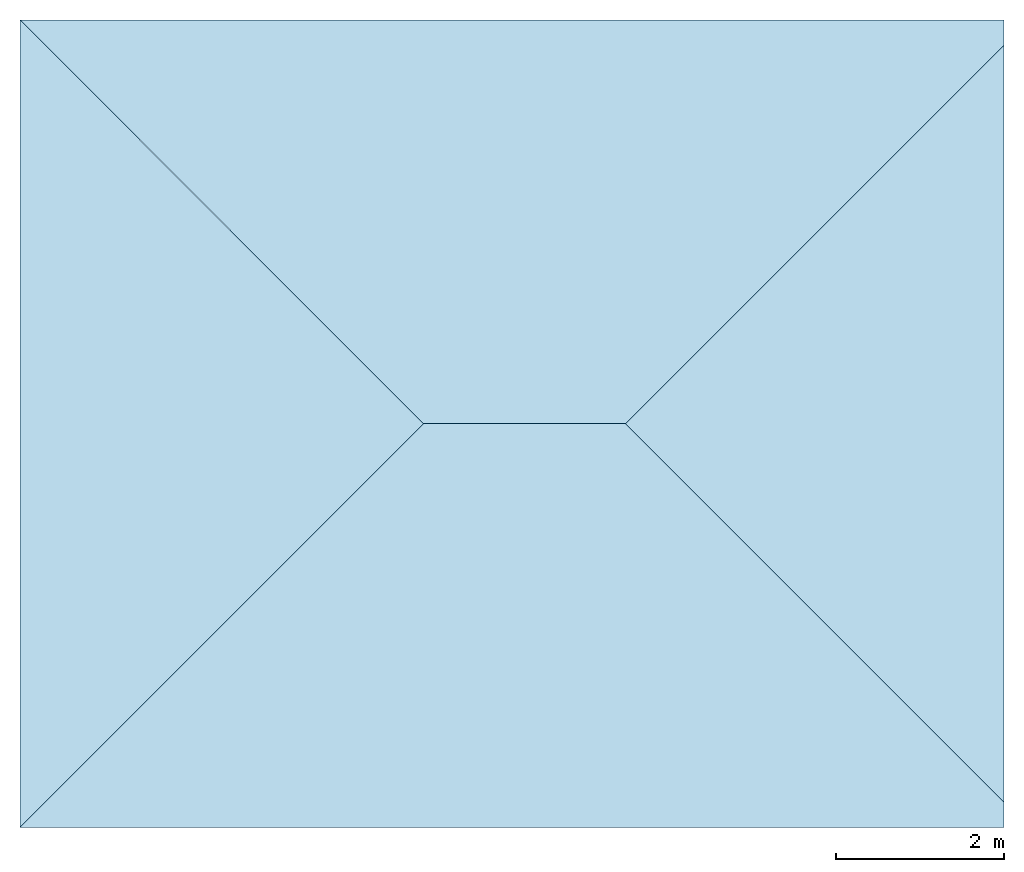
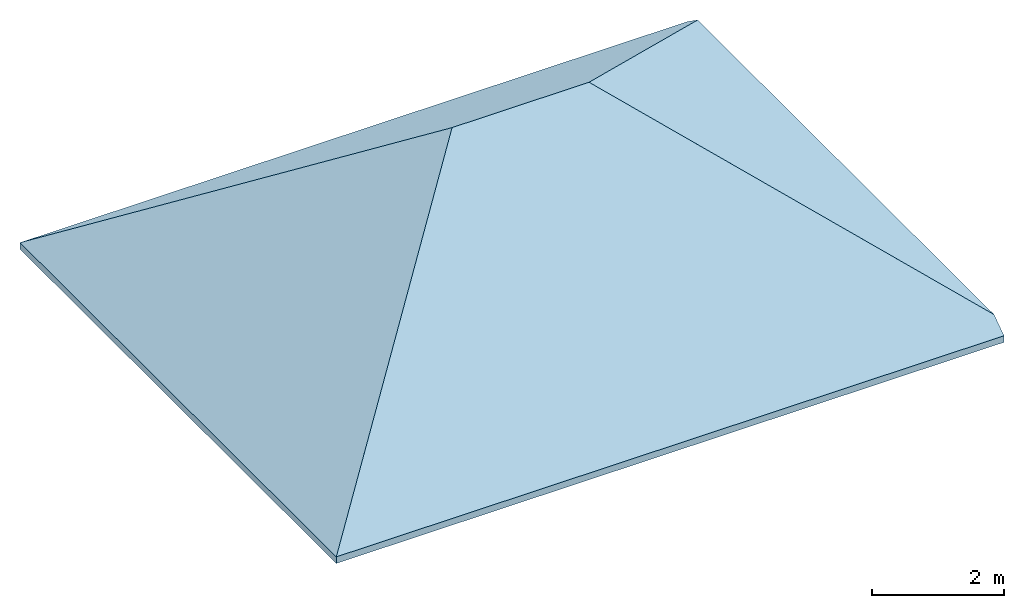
# One storey: 4 slabs, 1 element without a shape of its own.
"""IFC2X3 building model written with IfcOpenShell, lengths in centimetres."""

from ifc_helpers import new_model, entity, si_unit, converted_unit, derived_unit, direction, frame, origin, place, context, subcontext, project, spatial, polyline, outline, extrude, material, layer, layer_set, type_object, element, aggregate, save


model = new_model("IFC2X3")

# Units and contexts
model_context = context("Model", 3, precision=0.001, world=origin(), true_north=direction((6.123031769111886e-17, 1.0)))
body_context = subcontext(model_context, "Body", "Model", "MODEL_VIEW")
ifc_project = project(units=[si_unit("LENGTHUNIT", "METRE", prefix="CENTI"), si_unit("AREAUNIT", "SQUARE_METRE"), si_unit("VOLUMEUNIT", "CUBIC_METRE"), converted_unit("PLANEANGLEUNIT", "DEGREE", entity("IfcRatioMeasure", 0.017453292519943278), si_unit("PLANEANGLEUNIT", "RADIAN"), dimensions=[0, 0, 0, 0, 0, 0, 0]), si_unit("MASSUNIT", "GRAM", prefix="KILO"), derived_unit("MASSDENSITYUNIT", [(si_unit("MASSUNIT", "GRAM", prefix="KILO"), 1), (si_unit("LENGTHUNIT", "METRE"), -3)]), derived_unit("MOMENTOFINERTIAUNIT", [(si_unit("LENGTHUNIT", "METRE"), 4)]), si_unit("TIMEUNIT", "SECOND"), si_unit("FREQUENCYUNIT", "HERTZ"), si_unit("THERMODYNAMICTEMPERATUREUNIT", "DEGREE_CELSIUS"), derived_unit("THERMALTRANSMITTANCEUNIT", [(si_unit("MASSUNIT", "GRAM", prefix="KILO"), 1), (si_unit("THERMODYNAMICTEMPERATUREUNIT", "KELVIN"), -1), (si_unit("TIMEUNIT", "SECOND"), -3)]), derived_unit("THERMALCONDUCTANCEUNIT", [(si_unit("MASSUNIT", "GRAM", prefix="KILO"), 1), (si_unit("LENGTHUNIT", "METRE"), 1), (si_unit("THERMODYNAMICTEMPERATUREUNIT", "KELVIN"), -1), (si_unit("TIMEUNIT", "SECOND"), -3)]), derived_unit("VOLUMETRICFLOWRATEUNIT", [(si_unit("LENGTHUNIT", "METRE"), 3), (si_unit("TIMEUNIT", "SECOND"), -1)]), derived_unit("MASSFLOWRATEUNIT", [(si_unit("MASSUNIT", "GRAM", prefix="KILO"), 1), (si_unit("TIMEUNIT", "SECOND"), -1)]), derived_unit("ROTATIONALFREQUENCYUNIT", [(si_unit("TIMEUNIT", "SECOND"), -1)]), si_unit("ELECTRICCURRENTUNIT", "AMPERE"), si_unit("ELECTRICVOLTAGEUNIT", "VOLT"), si_unit("POWERUNIT", "WATT"), si_unit("FORCEUNIT", "NEWTON", prefix="KILO"), si_unit("ILLUMINANCEUNIT", "LUX"), si_unit("LUMINOUSFLUXUNIT", "LUMEN"), si_unit("LUMINOUSINTENSITYUNIT", "CANDELA"), derived_unit("USERDEFINED", [(si_unit("MASSUNIT", "GRAM", prefix="KILO"), -1), (si_unit("LENGTHUNIT", "METRE"), -2), (si_unit("TIMEUNIT", "SECOND"), 3), (si_unit("LUMINOUSFLUXUNIT", "LUMEN"), 1)]), derived_unit("USERDEFINED", [(si_unit("MASSUNIT", "GRAM", prefix="KILO"), 1), (si_unit("LENGTHUNIT", "METRE"), 3), (si_unit("TIMEUNIT", "SECOND"), -3), (si_unit("ELECTRICCURRENTUNIT", "AMPERE"), -2)]), derived_unit("USERDEFINED", [(si_unit("LENGTHUNIT", "METRE"), 2), (si_unit("TIMEUNIT", "SECOND"), -2)]), derived_unit("SOUNDPOWERUNIT", [(si_unit("MASSUNIT", "GRAM", prefix="KILO"), 1), (si_unit("LENGTHUNIT", "METRE"), 2), (si_unit("TIMEUNIT", "SECOND"), -3)]), derived_unit("SOUNDPRESSUREUNIT", [(si_unit("MASSUNIT", "GRAM", prefix="KILO"), 1), (si_unit("LENGTHUNIT", "METRE"), -1), (si_unit("TIMEUNIT", "SECOND"), -2)]), derived_unit("LINEARVELOCITYUNIT", [(si_unit("LENGTHUNIT", "METRE"), 1), (si_unit("TIMEUNIT", "SECOND"), -1)]), si_unit("PRESSUREUNIT", "PASCAL"), derived_unit("USERDEFINED", [(si_unit("LENGTHUNIT", "METRE"), -2), (si_unit("MASSUNIT", "GRAM", prefix="KILO"), 1), (si_unit("TIMEUNIT", "SECOND"), -2)]), derived_unit("LINEARFORCEUNIT", [(si_unit("MASSUNIT", "GRAM", prefix="KILO"), 1), (si_unit("LENGTHUNIT", "METRE"), 1), (si_unit("TIMEUNIT", "SECOND"), -2), (si_unit("LENGTHUNIT", "METRE"), -1)]), derived_unit("PLANARFORCEUNIT", [(si_unit("MASSUNIT", "GRAM", prefix="KILO"), 1), (si_unit("LENGTHUNIT", "METRE"), 1), (si_unit("TIMEUNIT", "SECOND"), -2), (si_unit("LENGTHUNIT", "METRE"), -2)]), derived_unit("SPECIFICHEATCAPACITYUNIT", [(si_unit("LENGTHUNIT", "METRE"), 2), (si_unit("TIMEUNIT", "SECOND"), -2), (si_unit("THERMODYNAMICTEMPERATUREUNIT", "KELVIN"), -1)]), derived_unit("VAPORPERMEABILITYUNIT", [(si_unit("TIMEUNIT", "SECOND"), 1), (si_unit("LENGTHUNIT", "METRE"), -1)]), derived_unit("DYNAMICVISCOSITYUNIT", [(si_unit("MASSUNIT", "GRAM", prefix="KILO"), 1), (si_unit("LENGTHUNIT", "METRE"), -1), (si_unit("TIMEUNIT", "SECOND"), -1)]), derived_unit("THERMALEXPANSIONCOEFFICIENTUNIT", [(si_unit("THERMODYNAMICTEMPERATUREUNIT", "KELVIN"), -1)])], contexts=[model_context])

# Site, building, storey
site_placement = place(None, origin())
site = spatial("IfcSite", under=ifc_project, at=site_placement, Name="Default", CompositionType="ELEMENT")
building_placement = place(site_placement, origin())
building = spatial("IfcBuilding", under=site, at=building_placement, CompositionType="ELEMENT")
storey_placement = place(building_placement, frame((0.0, 0.0, 350.0)))
storey = spatial("IfcBuildingStorey", under=building, at=storey_placement, Name="x_Arase habitation", CompositionType="ELEMENT", Elevation=350.0)

# Roof, slabs
ifc_material = material(Name="Ardoise")
ifc_layer = layer(ifc_material, 10.0)
ifc_layer_set = layer_set([ifc_layer], Name="Toit de base:Toit ardoise - 100 mm")
roof_placement = place(storey_placement, frame((-752.0684437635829, -551.3533541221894, -21.00622614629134)))
roof = element("IfcRoof", 1, at=roof_placement, inside=storey, material=ifc_layer_set, Name="Toit de base:Toit ardoise - 100 mm", ObjectType="Toit de base:Toit ardoise - 100 mm", ShapeType="NOTDEFINED")
slab_type = type_object("IfcSlabType", Name="Toit de base:Toit ardoise - 100 mm", PredefinedType="ROOF")
slab_1_placement = place(roof_placement, origin())
slab_1 = element("IfcSlab", 2, at=slab_1_placement, type_object=slab_type, material=ifc_layer_set, Name="Toit de base:Toit ardoise - 100 mm", ObjectType="Toit de base:Toit ardoise - 100 mm", PredefinedType="ROOF", context=body_context, shape_type="SweptSolid", body=[
    extrude(outline(polyline([(-105.0, -292.9859013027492), (135.0, -292.9859013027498), (585.0, 256.36266363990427), (585.0, 292.98590130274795), (-585.0, 292.98590130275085), (-105.0, -292.9859013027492)])), frame((585.0, 720.0, 168.04980917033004), z_axis=(0.0, 0.573576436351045, 0.8191520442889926), x_axis=(1.0, 0.0, 0.0)), (0.0, -0.573576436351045, 0.8191520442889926), 12.207745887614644),
])
slab_2_placement = place(roof_placement, origin())
slab_2 = element("IfcSlab", 3, at=slab_2_placement, type_object=slab_type, material=ifc_layer_set, Name="Toit de base:Toit ardoise - 100 mm", ObjectType="Toit de base:Toit ardoise - 100 mm", PredefinedType="ROOF", context=body_context, shape_type="SweptSolid", body=[
    extrude(outline(polyline([(-292.98590130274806, 480.0), (-292.9859013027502, -480.0), (292.9859013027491, 0.0), (-292.98590130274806, 480.0)])), frame((240.0, 480.0, 168.04980917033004), z_axis=(-0.5735764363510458, 0.0, 0.819152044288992), x_axis=(0.819152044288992, 0.0, 0.5735764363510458)), (0.5735764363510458, 0.0, 0.819152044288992), 12.207745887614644),
])
slab_3_placement = place(roof_placement, origin())
slab_3 = element("IfcSlab", 4, at=slab_3_placement, type_object=slab_type, material=ifc_layer_set, Name="Toit de base:Toit ardoise - 100 mm", ObjectType="Toit de base:Toit ardoise - 100 mm", PredefinedType="ROOF", context=body_context, shape_type="SweptSolid", body=[
    extrude(outline(polyline([(-585.0, -292.9859013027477), (585.0, -292.98590130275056), (585.0, -256.36266363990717), (135.0, 292.9859013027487), (-105.0, 292.98590130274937), (-585.0, -292.9859013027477)])), frame((585.0, 240.0, 168.04980917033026), z_axis=(0.0, -0.5735764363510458, 0.819152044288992), x_axis=(1.0, 0.0, 0.0)), (0.0, 0.5735764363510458, 0.819152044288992), 12.207745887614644),
])
slab_4_placement = place(roof_placement, origin())
slab_4 = element("IfcSlab", 5, at=slab_4_placement, type_object=slab_type, material=ifc_layer_set, Name="Toit de base:Toit ardoise - 100 mm", ObjectType="Toit de base:Toit ardoise - 100 mm", PredefinedType="ROOF", context=body_context, shape_type="SweptSolid", body=[
    extrude(outline(polyline([(274.67428247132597, -450.0), (274.67428247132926, 450.0), (-274.6742824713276, 0.0), (274.67428247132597, -450.0)])), frame((945.0, 480.0, 178.55292224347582), z_axis=(0.573576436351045, 0.0, 0.8191520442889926), x_axis=(0.8191520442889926, 0.0, -0.573576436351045)), (-0.573576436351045, 0.0, 0.8191520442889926), 12.207745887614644),
])
aggregate(roof, [slab_1, slab_2, slab_3, slab_4])

save(model, "model.ifc")
